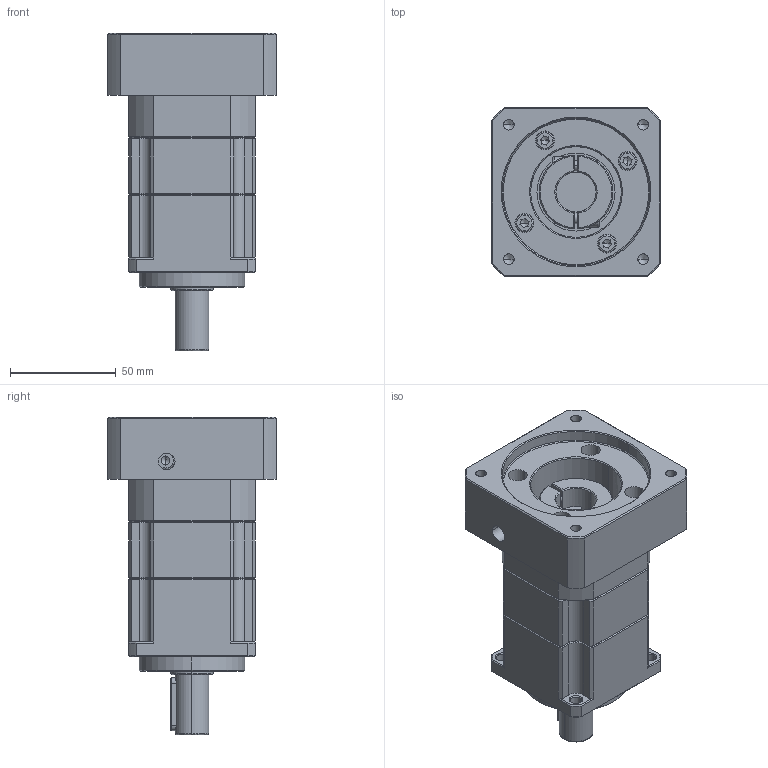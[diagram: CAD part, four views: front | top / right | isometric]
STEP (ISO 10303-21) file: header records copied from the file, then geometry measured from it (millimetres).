
FILE_DESCRIPTION (( 'STEP AP214' ), '1' );
FILE_NAME ('ZPB060-D16-L2-P1-19-70-90-M6.step', '2024-04-23T15:42:18', ( 'Windows 蚚誧' ), ( 'Organization' ), 'SwSTEP 2.0', 'SolidWorks 2016', '' );
FILE_SCHEMA (( 'AUTOMOTIVE_DESIGN' ));
Length unit declared in the file: millimetre
Products named in the file (1): ZPB060-D16-L2-P1-19-70-90-M6
Bounding box: 80 x 80 x 150.5 mm (x, y, z)
Volume: 398582.9 mm3; surface area: 79682.2 mm2
Topology: 10 solids, 18 shells, 1801 faces, 4787 edges, 3087 vertices
Faces by surface type: plane 1034, bspline 373, cylinder 228, cone 154, torus 12
Entity records: 93522 total; most frequent: CARTESIAN_POINT 31478, ORIENTED_EDGE 9498, DIRECTION 7307, EDGE_CURVE 4749, LINE 3235, VECTOR 3235, VERTEX_POINT 3087, AXIS2_PLACEMENT_3D 2036
